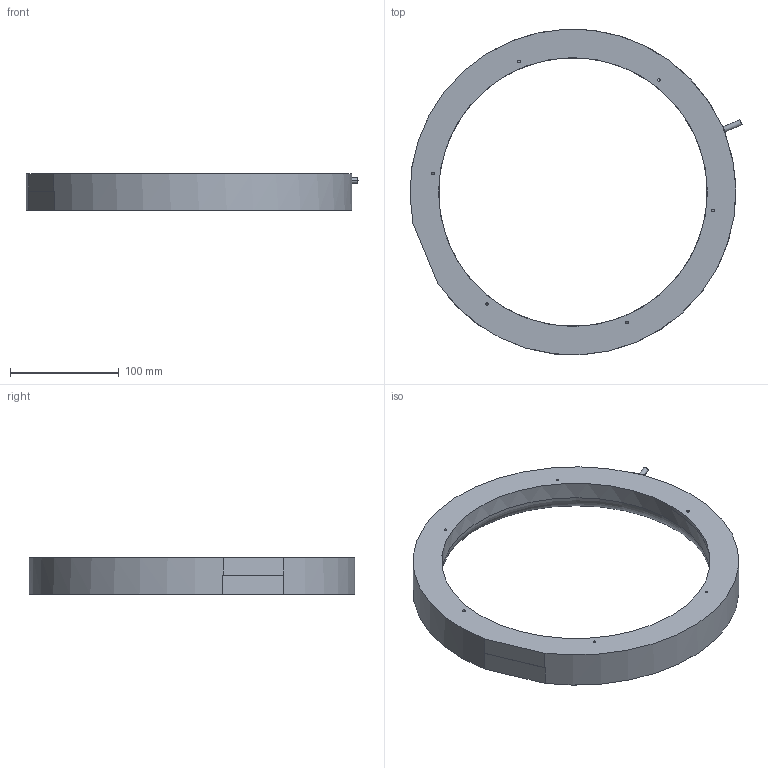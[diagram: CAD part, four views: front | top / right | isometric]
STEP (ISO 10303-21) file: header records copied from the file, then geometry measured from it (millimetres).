
FILE_DESCRIPTION((''),'2;1');
FILE_NAME('LS-LRSS-H-300-W','2024-03-29T18:24:13',('LumaSpec Vision'),('LumaSpec Vision'),'CREO PARAMETRIC BY PTC INC, 2020044','CREO PARAMETRIC BY PTC INC, 2020044','');
FILE_SCHEMA(('CONFIG_CONTROL_DESIGN'));
Length unit declared in the file: millimetre
Products named in the file (1): LS-LRSS-H-300-W
Bounding box: 305.59 x 299.74 x 34 mm (x, y, z)
Volume: 539361 mm3; surface area: 147192.9 mm2
Topology: 1 solids, 9 shells, 378 faces, 878 edges, 526 vertices
Faces by surface type: plane 218, cylinder 105, cone 32, torus 21, sphere 2
Entity records: 10815 total; most frequent: CARTESIAN_POINT 2108, DIRECTION 1836, ORIENTED_EDGE 1752, EDGE_CURVE 876, AXIS2_PLACEMENT_3D 649, VECTOR 538, LINE 538, VERTEX_POINT 526
